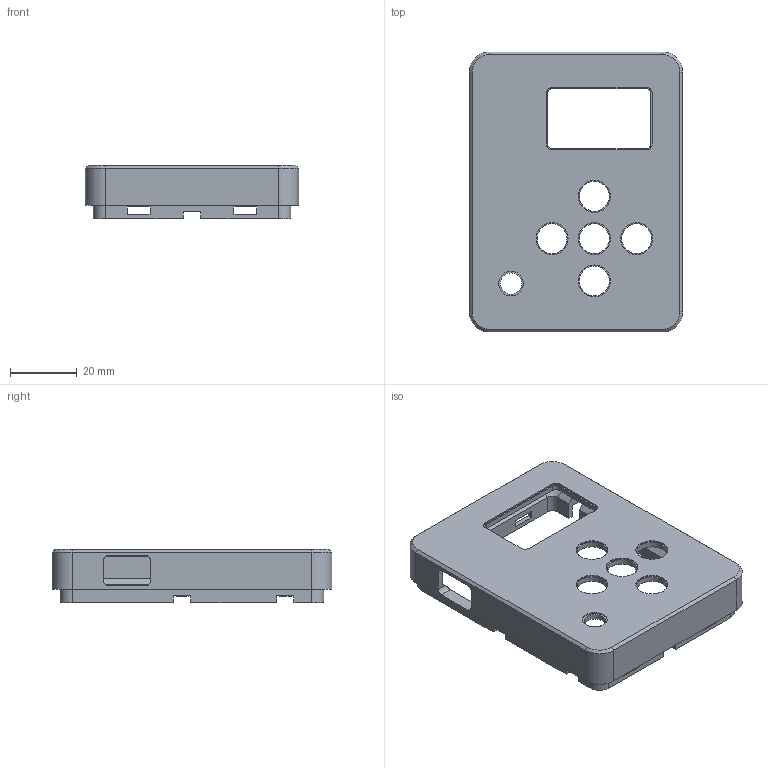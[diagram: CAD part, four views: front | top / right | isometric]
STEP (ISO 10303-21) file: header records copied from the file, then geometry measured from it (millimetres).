
FILE_DESCRIPTION(('Open CASCADE Model'),'2;1');
FILE_NAME('Open CASCADE Shape Model','2026-09-26T12:51:07',('Author'),( 'Open CASCADE'),'Open CASCADE STEP processor 7.8','Open CASCADE 7.8' ,'Unknown');
FILE_SCHEMA(('AUTOMOTIVE_DESIGN { 1 0 10303 214 1 1 1 1 }'));
Length unit declared in the file: millimetre
Products named in the file (1): Open CASCADE STEP translator 7.8 2
Bounding box: 64 x 84 x 16 mm (x, y, z)
Volume: 16763.2 mm3; surface area: 18194.8 mm2
Topology: 1 solids, 1 shells, 176 faces, 480 edges, 312 vertices
Faces by surface type: plane 127, cylinder 41, cone 8
Full cylindrical faces by diameter (mm): 6.4 x1, 7.4 x1, 9 x5, 9.6 x5
Entity records: 11560 total; most frequent: CARTESIAN_POINT 2472, DIRECTION 1508, ORIENTED_EDGE 960, PCURVE 960, DEFINITIONAL_REPRESENTATION 960, LINE 927, VECTOR 927, EDGE_CURVE 480
